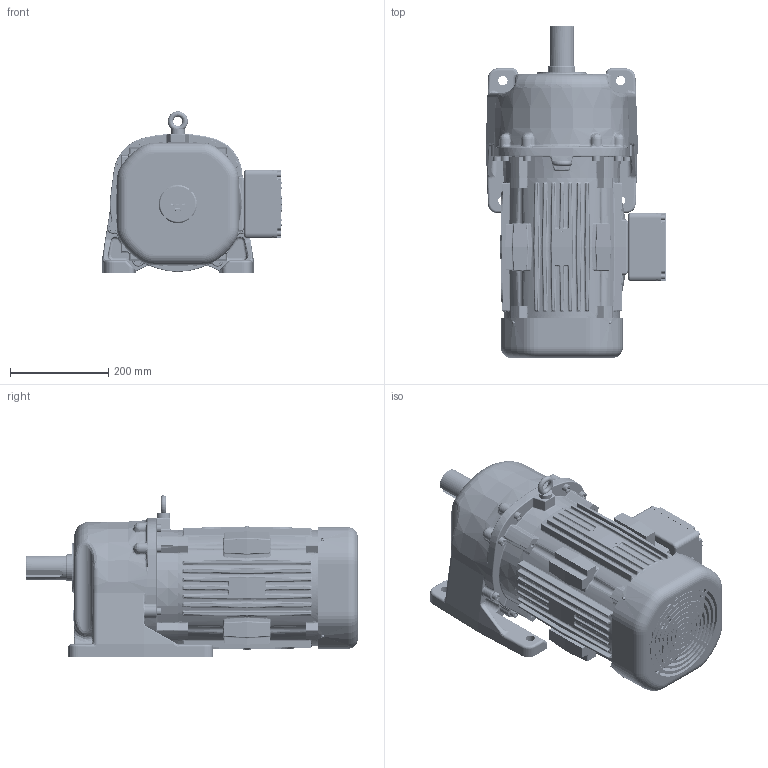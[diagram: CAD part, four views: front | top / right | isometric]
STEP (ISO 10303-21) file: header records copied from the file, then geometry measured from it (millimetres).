
FILE_DESCRIPTION(/* description */ (''),/* implementation_level */ '2;1');
FILE_NAME(/* name */ 'Z:\동력 3D 파일\PML181_7.5kW_3D.stp',/* time_stamp */ '2021-12-01T15:23:18+09:00',/* author */ ('jaebok'),/* organization */ (''),/* preprocessor_version */ 'ST-DEVELOPER v18.1',/* originating_system */ 'Autodesk Inventor 2022',/* authorisation */ '');
FILE_SCHEMA (('AUTOMOTIVE_DESIGN { 1 0 10303 214 3 1 1 }'));
Products named in the file (1): 부품25
Bounding box: 367.9 x 676.5 x 329 mm (x, y, z)
Volume: 9672195.7 mm3; surface area: 1919167.4 mm2
Topology: 2 solids, 29 shells, 5431 faces, 13347 edges, 7812 vertices
Faces by surface type: bspline 1801, cylinder 1323, plane 1310, torus 498, sphere 303, cone 196
Full cylindrical faces by diameter (mm): 3.242 x4, 4.134 x4, 4.917 x9, 5 x16, 6 x9, 6.5 x8, 6.647 x5, 6.8 x4, 7 x4, 8 x8, 8.4 x8, 9.5 x4, 10 x24, 10.2 x1, 11 x8, 12 x2, 13.2 x1, 15 x1, 16 x8, 19 x4, 20 x1, 28 x2, 32 x1, 34 x1, 36 x1, 49.6 x1, 50 x3, 52 x1, 55 x2, 60 x1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
Entity records: 216272 total; most frequent: CARTESIAN_POINT 94380, ORIENTED_EDGE 26032, DIRECTION 21664, EDGE_CURVE 13016, AXIS2_PLACEMENT_3D 8605, VERTEX_POINT 7811, EDGE_LOOP 5731, FACE_OUTER_BOUND 5431
